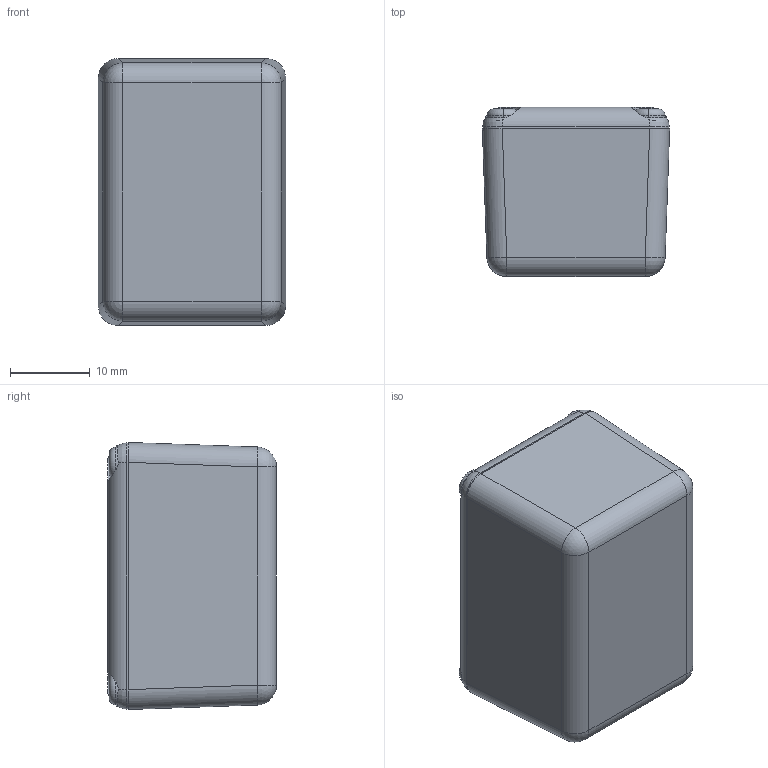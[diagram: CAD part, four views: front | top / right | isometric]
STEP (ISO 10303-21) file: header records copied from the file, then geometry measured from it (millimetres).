
FILE_DESCRIPTION (( 'STEP AP214' ), '1' );
FILE_NAME ('BMC 205D.STEP', '2021-03-25T18:26:16', ( '' ), ( '' ), 'SwSTEP 2.0', 'SolidWorks 2016', '' );
FILE_SCHEMA (( 'AUTOMOTIVE_DESIGN' ));
Length unit declared in the file: millimetre
Products named in the file (4): BMC 205D Top; BMC 205D Bottom; BMC 205D; BMC Screw
Assembly tree (6 placements, depth 2):
  BMC 205D
    BMC 205D Bottom
    BMC 205D Top
    BMC Screw  x4
Bounding box: 23.5 x 21.2 x 33.5 mm (x, y, z)
Volume: 5330.1 mm3; surface area: 7959.5 mm2
Topology: 6 solids, 6 shells, 885 faces, 2329 edges, 1538 vertices
Faces by surface type: plane 438, bspline 334, cylinder 56, cone 41, sphere 8, torus 8
Entity records: 40908 total; most frequent: CARTESIAN_POINT 22832, ORIENTED_EDGE 4302, DIRECTION 2560, EDGE_CURVE 2151, VERTEX_POINT 1424, VECTOR 1296, LINE 1296, EDGE_LOOP 895
